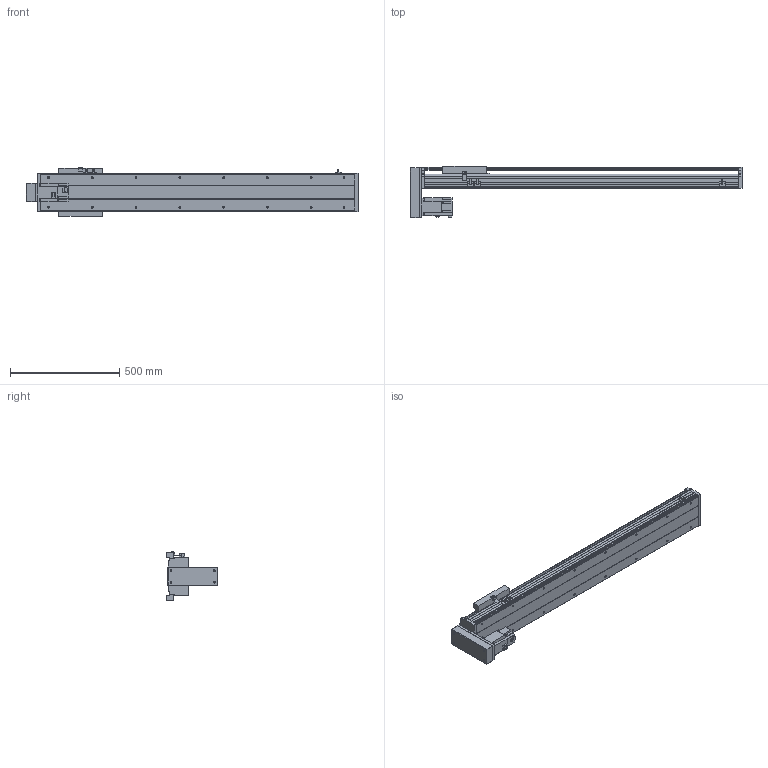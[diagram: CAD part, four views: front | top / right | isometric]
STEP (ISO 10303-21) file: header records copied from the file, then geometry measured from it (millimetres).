
FILE_DESCRIPTION(/* description */ ('STEP AP214'),/* implementation_level */ '2;1');
FILE_NAME(/* name */ 'PSS200-L10-S1100-BM-T75-C1-N(0)',/* time_stamp */ '2022-06-29T09:55:05+02:00',/* author */ ('License CC BY-ND 4.0'),/* organization */ ('CADENAS'),/* preprocessor_version */ 'ST-DEVELOPER v18.102',/* originating_system */ 'PARTsolutions',/* authorisation */ ' ');
FILE_SCHEMA (('AUTOMOTIVE_DESIGN {1 0 10303 214 3 1 1}'));
Length unit declared in the file: millimetre
Products named in the file (8): PSS200-L10-S1100-BM-T75-C1-N(0); PSS200-S1100-BM-N_S; T75-p1; PSS200BM-N_h; PSS200-N_sensor; PSS200-BM-C1-N_sl; PSS200-N_Q; PSS200-S1100-BM-C1-N_body
Assembly tree (9 placements, depth 2):
  PSS200-L10-S1100-BM-T75-C1-N(0)
    PSS200-S1100-BM-N_S
    T75-p1
    PSS200BM-N_h
    PSS200-N_sensor  x3
    PSS200-BM-C1-N_sl
    PSS200-N_Q
    PSS200-S1100-BM-C1-N_body
Bounding box: 1516.85 x 234.45 x 223.86 mm (x, y, z)
Volume: 9697899.6 mm3; surface area: 2359440.9 mm2
Topology: 9 solids, 9 shells, 606 faces, 1625 edges, 1078 vertices
Faces by surface type: plane 452, cylinder 126, cone 24, sphere 4
Full cylindrical faces by diameter (mm): 4 x2, 4.5 x4, 6 x7, 6.647 x20, 7.4 x4, 8 x8, 10 x6, 25 x1, 40 x1, 67 x1
Entity records: 16852 total; most frequent: CARTESIAN_POINT 2917, DIRECTION 2787, ORIENTED_EDGE 2746, EDGE_CURVE 1373, LINE 1071, VECTOR 1071, VERTEX_POINT 956, AXIS2_PLACEMENT_3D 858
